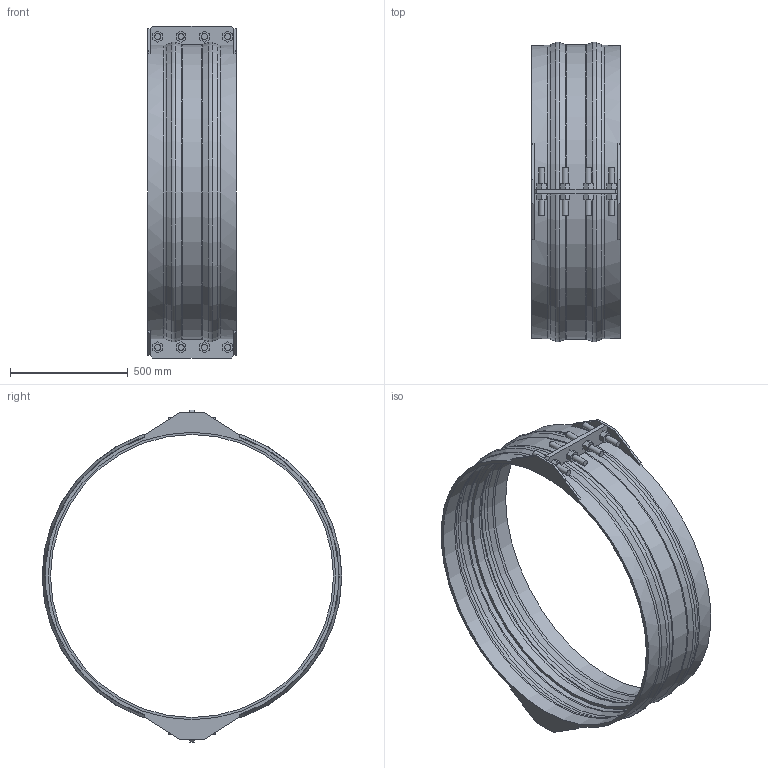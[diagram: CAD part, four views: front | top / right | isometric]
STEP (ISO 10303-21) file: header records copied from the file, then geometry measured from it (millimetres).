
FILE_DESCRIPTION(/* description */ ('VIC SS RESTRAINED COUPLING STYLE 233S (FLEX) (BRD)','CAx-IF Rec.Pracs.---Representation and Presentation of Product Manufacturing Information (PMI)---4.0---2014-10-13'),/* implementation_level */ '2;1');
FILE_NAME(/* name */ 'C:\Users\kkamble\AppData\Roaming\Autodesk\ApplicationPlugins\Back Up\Victaulic_VBSP_Coupling Flexible Restrained_Style 233S (BRD)\Victaulic_VBSP_Coupling Flexible Restrained_Style 233S (BRD)_150psi_48 (1200).stp',/* time_stamp */ '2020-09-22T18:30:09+05:00',/* author */ ('Vjadhav'),/* organization */ ('Victaulic'),/* preprocessor_version */ 'ST-DEVELOPER v17.2',/* originating_system */ 'Autodesk Inventor 2019',/* authorisation */ '');
FILE_SCHEMA (('AP242_MANAGED_MODEL_BASED_3D_ENGINEERING_MIM_LF { 1 0 10303 442 1 1 4 }'));
Length unit declared in the file: inch
Products named in the file (1): Style_233S_Type_2_150psi-48.0
Bounding box: 374.65 x 1271.29 x 1408.43 mm (x, y, z)
Volume: 23450248.5 mm3; surface area: 3572058.9 mm2
Topology: 1 solids, 1 shells, 239 faces, 625 edges, 422 vertices
Faces by surface type: plane 166, cylinder 43, torus 18, cone 12
Full cylindrical faces by diameter (mm): 25.4 x16, 1200.15 x1, 1219.2 x2, 1225.55 x2
Entity records: 7896 total; most frequent: CARTESIAN_POINT 1496, DIRECTION 1259, ORIENTED_EDGE 1250, EDGE_CURVE 625, LINE 449, VECTOR 449, VERTEX_POINT 422, AXIS2_PLACEMENT_3D 405
